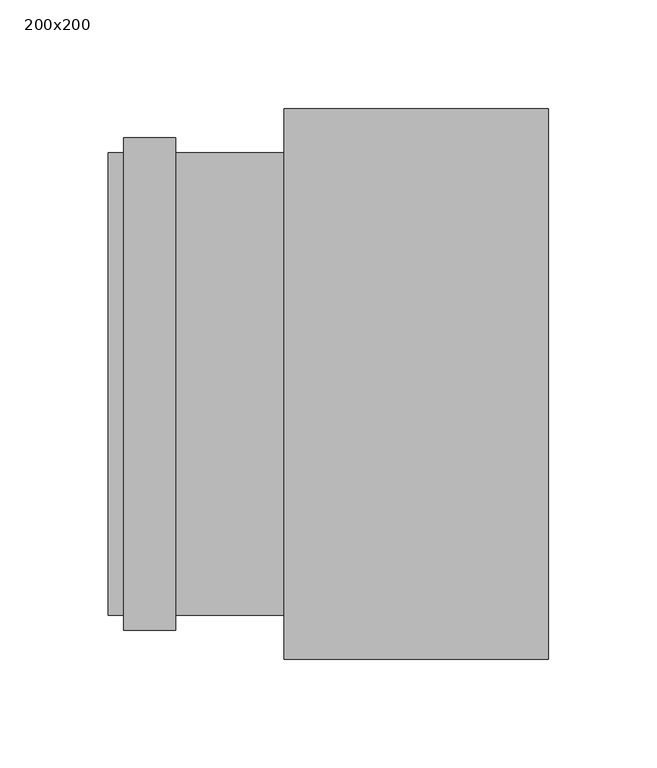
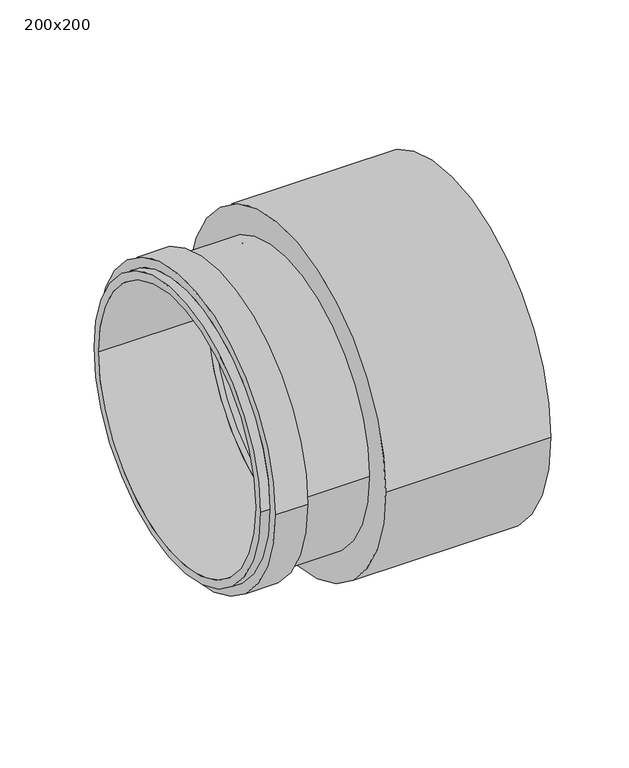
"""IFC4 building model written with IfcOpenShell, lengths in millimetres: pipe fitting geometry, Pipelife - Pragma +ID - Adaptor kanalizacyjny bosy : 200x200."""

from ifc_helpers import new_model, si_unit, frame, origin, place, context, project, spatial, polyline, circle_curve, source, transform, mapped, element, save
from ifc_brep_helpers import plane_surface, cylinder_surface, revolved_surface, advanced_brep


def pipe_fitting_200x200_34b12068(model_context):
    return source(origin(), model_context, "Body", "AdvancedBrep", [
        advanced_brep(
        [(-4.0, -127.0, 0.0), (-4.0, 127.0, 0.0), (-4.0, 100.5, 0.0), (-4.0, -100.5, 0.0), (118.0, -127.0, 0.0), (118.0, 127.0, 0.0), (118.0, -115.5, 0.0), (118.0, 115.5, 0.0), (0.0, -100.5, 0.0), (0.0, 100.5, 0.0), (0.0, -115.5, 0.0), (0.0, 115.5, 0.0)],
        [
            (0, 1, circle_curve(frame((-4.0, 0.0, 0.0), z_axis=(-1.0, 0.0, 0.0), x_axis=(0.0, 1.0, 0.0)), 127.0)),
            (1, 0, circle_curve(frame((-4.0, 0.0, 0.0), z_axis=(-1.0, 0.0, 0.0), x_axis=(0.0, 1.0, 0.0)), 127.0)),
            (2, 3, circle_curve(frame((-4.0, 0.0, 0.0), z_axis=(1.0, 0.0, 0.0), x_axis=(0.0, 1.0, 0.0)), 100.5)),
            (3, 2, circle_curve(frame((-4.0, 0.0, 0.0), z_axis=(1.0, 0.0, 0.0), x_axis=(0.0, 1.0, 0.0)), 100.5)),
            (4, 5, circle_curve(frame((118.0, 0.0, 0.0), z_axis=(1.0, 0.0, 0.0), x_axis=(0.0, 1.0, 0.0)), 127.0)),
            (5, 4, circle_curve(frame((118.0, 0.0, 0.0), z_axis=(1.0, 0.0, 0.0), x_axis=(0.0, 1.0, 0.0)), 127.0)),
            (6, 7, circle_curve(frame((118.0, 0.0, 0.0), z_axis=(-1.0, 0.0, 0.0), x_axis=(0.0, 1.0, 0.0)), 115.5)),
            (7, 6, circle_curve(frame((118.0, 0.0, 0.0), z_axis=(-1.0, 0.0, 0.0), x_axis=(0.0, 1.0, 0.0)), 115.5)),
            (0, 4),
            (5, 1),
            (8, 3),
            (2, 9),
            (9, 8, circle_curve(frame((0.0, 0.0, 0.0), z_axis=(1.0, 0.0, 0.0), x_axis=(0.0, 1.0, 0.0)), 100.5)),
            (8, 9, circle_curve(frame((0.0, 0.0, 0.0), z_axis=(1.0, 0.0, 0.0), x_axis=(0.0, 1.0, 0.0)), 100.5)),
            (10, 11, circle_curve(frame((0.0, 0.0, 0.0), z_axis=(1.0, 0.0, 0.0), x_axis=(0.0, 1.0, 0.0)), 115.5)),
            (11, 10, circle_curve(frame((0.0, 0.0, 0.0), z_axis=(1.0, 0.0, 0.0), x_axis=(0.0, 1.0, 0.0)), 115.5)),
            (11, 7),
            (6, 10),
        ],
        [
            plane_surface(frame((-4.0, 0.0, 0.0), z_axis=(-1.0, 0.0, 0.0), x_axis=(0.0, 0.0, 1.0))),
            plane_surface(frame((118.0, 0.0, 0.0), z_axis=(1.0, 0.0, 0.0), x_axis=(0.0, 0.0, 1.0))),
            cylinder_surface(frame((-4.0, 0.0, 0.0), z_axis=(-1.0, 0.0, 0.0), x_axis=(0.0, 1.0, 0.0)), 127.0),
            revolved_surface(polyline([(-4.0, 100.5, 0.0), (0.0, 100.5, 0.0)]), (-85.0, 0.0, 0.0), (-1.0, 0.0, 0.0)),
            plane_surface(frame((0.0, 0.0, 0.0), z_axis=(1.0, 0.0, 0.0), x_axis=(0.0, 0.0, 1.0))),
            revolved_surface(polyline([(0.0, 115.5, 0.0), (118.0, 115.5, 0.0)]), (0.0, 0.0, 0.0), (-1.0, 0.0, 0.0)),
        ],
        [
            (0, [[1, 2], [3, 4]]),
            (1, [[5, 6], [7, 8]]),
            (2, [[-1, 9, -6, 10]]),
            (2, [[-2, -10, -5, -9]]),
            (3, [[11, -3, 12, 13]]),
            (3, [[-11, 14, -12, -4]]),
            (4, [[15, 16], [-13, -14]]),
            (5, [[-16, 17, -7, 18]]),
            (5, [[-15, -18, -8, -17]]),
        ],
    ),
        advanced_brep(
        [(-85.0, -106.5, 0.0), (-85.0, 106.5, 0.0), (-85.0, 100.5, 0.0), (-85.0, -100.5, 0.0), (-4.0, -106.5, 0.0), (-4.0, 106.5, 0.0), (-4.0, -100.5, 0.0), (-4.0, 100.5, 0.0), (-78.0, -106.5, 0.0), (-78.0, 106.5, 0.0), (-54.0, 106.5, 0.0), (-54.0, -106.5, 0.0), (-78.0, -113.5, 0.0), (-78.0, 113.5, 0.0), (-54.0, -113.5, 0.0), (-54.0, 113.5, 0.0)],
        [
            (0, 1, circle_curve(frame((-85.0, 0.0, 0.0), z_axis=(-1.0, 0.0, 0.0), x_axis=(0.0, 1.0, 0.0)), 106.5)),
            (1, 0, circle_curve(frame((-85.0, 0.0, 0.0), z_axis=(-1.0, 0.0, 0.0), x_axis=(0.0, 1.0, 0.0)), 106.5)),
            (2, 3, circle_curve(frame((-85.0, 0.0, 0.0), z_axis=(1.0, 0.0, 0.0), x_axis=(0.0, 1.0, 0.0)), 100.5)),
            (3, 2, circle_curve(frame((-85.0, 0.0, 0.0), z_axis=(1.0, 0.0, 0.0), x_axis=(0.0, 1.0, 0.0)), 100.5)),
            (4, 5, circle_curve(frame((-4.0, 0.0, 0.0), z_axis=(1.0, 0.0, 0.0), x_axis=(0.0, 1.0, 0.0)), 106.5)),
            (5, 4, circle_curve(frame((-4.0, 0.0, 0.0), z_axis=(1.0, 0.0, 0.0), x_axis=(0.0, 1.0, 0.0)), 106.5)),
            (6, 7, circle_curve(frame((-4.0, 0.0, 0.0), z_axis=(-1.0, 0.0, 0.0), x_axis=(0.0, 1.0, 0.0)), 100.5)),
            (7, 6, circle_curve(frame((-4.0, 0.0, 0.0), z_axis=(-1.0, 0.0, 0.0), x_axis=(0.0, 1.0, 0.0)), 100.5)),
            (0, 8),
            (8, 9, circle_curve(frame((-78.0, 0.0, 0.0), z_axis=(-1.0, 0.0, 0.0), x_axis=(0.0, 1.0, 0.0)), 106.5)),
            (9, 1),
            (5, 10),
            (10, 11, circle_curve(frame((-54.0, 0.0, 0.0), z_axis=(1.0, 0.0, 0.0), x_axis=(0.0, 1.0, 0.0)), 106.5)),
            (11, 4),
            (9, 8, circle_curve(frame((-78.0, 0.0, 0.0), z_axis=(-1.0, 0.0, 0.0), x_axis=(0.0, 1.0, 0.0)), 106.5)),
            (11, 10, circle_curve(frame((-54.0, 0.0, 0.0), z_axis=(1.0, 0.0, 0.0), x_axis=(0.0, 1.0, 0.0)), 106.5)),
            (6, 3),
            (2, 7),
            (12, 13, circle_curve(frame((-78.0, 0.0, 0.0), z_axis=(-1.0, 0.0, 0.0), x_axis=(0.0, 1.0, 0.0)), 113.5)),
            (13, 12, circle_curve(frame((-78.0, 0.0, 0.0), z_axis=(-1.0, 0.0, 0.0), x_axis=(0.0, 1.0, 0.0)), 113.5)),
            (14, 15, circle_curve(frame((-54.0, 0.0, 0.0), z_axis=(1.0, 0.0, 0.0), x_axis=(0.0, 1.0, 0.0)), 113.5)),
            (15, 14, circle_curve(frame((-54.0, 0.0, 0.0), z_axis=(1.0, 0.0, 0.0), x_axis=(0.0, 1.0, 0.0)), 113.5)),
            (12, 14),
            (15, 13),
        ],
        [
            plane_surface(frame((-85.0, 0.0, 0.0), z_axis=(-1.0, 0.0, 0.0), x_axis=(0.0, 0.0, 1.0))),
            plane_surface(frame((-4.0, 0.0, 0.0), z_axis=(1.0, 0.0, 0.0), x_axis=(0.0, 0.0, 1.0))),
            cylinder_surface(frame((-85.0, 0.0, 0.0), z_axis=(-1.0, 0.0, 0.0), x_axis=(0.0, 1.0, 0.0)), 106.5),
            revolved_surface(polyline([(-85.0, 100.5, 0.0), (-4.0, 100.5, 0.0)]), (-85.0, 0.0, 0.0), (-1.0, 0.0, 0.0)),
            plane_surface(frame((-78.0, 0.0, 0.0), z_axis=(-1.0, 0.0, 0.0), x_axis=(0.0, 0.0, 1.0))),
            plane_surface(frame((-54.0, 0.0, 0.0), z_axis=(1.0, 0.0, 0.0), x_axis=(0.0, 0.0, 1.0))),
            cylinder_surface(frame((-78.0, 0.0, 0.0), z_axis=(-1.0, 0.0, 0.0), x_axis=(0.0, 1.0, 0.0)), 113.5),
        ],
        [
            (0, [[1, 2], [3, 4]]),
            (1, [[5, 6], [7, 8]]),
            (2, [[-1, 9, 10, 11]]),
            (2, [[-6, 12, 13, 14]]),
            (2, [[-2, -11, 15, -9]]),
            (2, [[-5, -14, 16, -12]]),
            (3, [[17, -3, 18, -7]]),
            (3, [[-17, -8, -18, -4]]),
            (4, [[19, 20], [-10, -15]]),
            (5, [[21, 22], [-13, -16]]),
            (6, [[-19, 23, -22, 24]]),
            (6, [[-20, -24, -21, -23]]),
        ],
    ),
    ])


if __name__ == "__main__":
    model = new_model("IFC4")
    model_context = context("Model", 3, world=origin())
    ifc_project = project(units=[si_unit("LENGTHUNIT", "METRE", prefix="MILLI")], contexts=[model_context])
    site = spatial("IfcSite", under=ifc_project)
    building = spatial("IfcBuilding", under=site)
    placement = place(None, origin())
    pipe_fitting_200x200_shape = pipe_fitting_200x200_34b12068(model_context)
    element("IfcPipeFitting", 1, ObjectType="Pipelife - Pragma +ID - Adaptor kanalizacyjny bosy : 200x200", at=placement, inside=building, context=model_context, shape_type="MappedRepresentation", body=[
        mapped(pipe_fitting_200x200_shape, transform((0.0, 0.0, 0.0), x_axis=(1.0, 0.0, 0.0), y_axis=(0.0, 1.0, 0.0), z_axis=(0.0, 0.0, 1.0))),
    ])
    save(model, "model.ifc")
